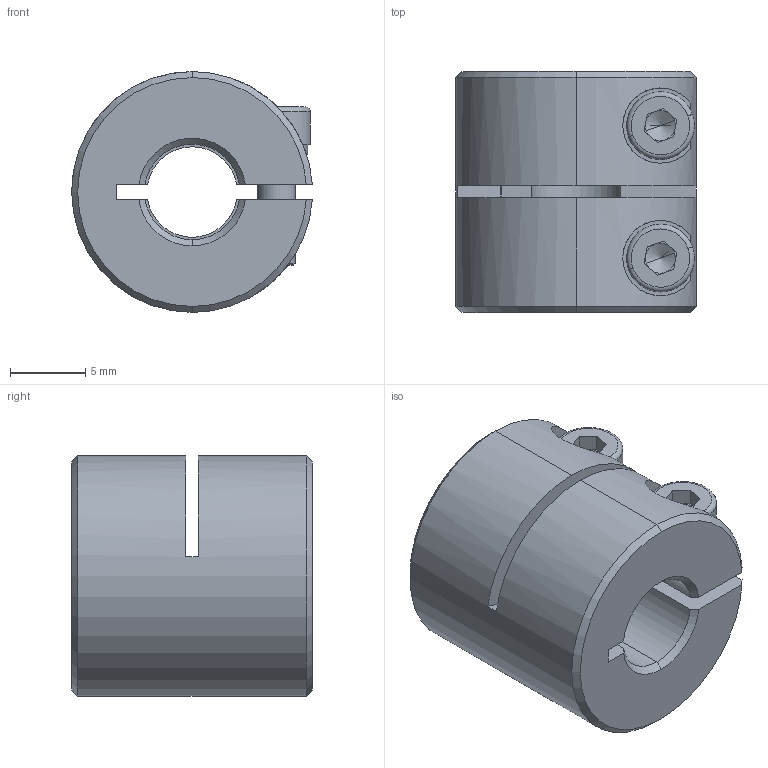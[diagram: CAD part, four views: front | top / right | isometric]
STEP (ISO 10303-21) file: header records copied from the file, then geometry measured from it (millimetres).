
FILE_DESCRIPTION (( 'STEP AP203' ), '1' );
FILE_NAME ('LL-B-D16L16-6-6.35.STEP', '2021-11-03T02:44:39', ( '' ), ( '' ), 'SwSTEP 2.0', 'SolidWorks 2018', '' );
FILE_SCHEMA (( 'CONFIG_CONTROL_DESIGN' ));
Length unit declared in the file: millimetre
Products named in the file (1): LL-B-D16L16-6-6.35
Bounding box: 15.98 x 16 x 16 mm (x, y, z)
Volume: 2523.4 mm3; surface area: 2007 mm2
Topology: 1 solids, 1 shells, 121 faces, 313 edges, 196 vertices
Faces by surface type: plane 52, cylinder 45, cone 20, torus 4
Entity records: 3948 total; most frequent: CARTESIAN_POINT 879, DIRECTION 653, ORIENTED_EDGE 618, EDGE_CURVE 309, AXIS2_PLACEMENT_3D 254, VERTEX_POINT 196, VECTOR 145, LINE 145
